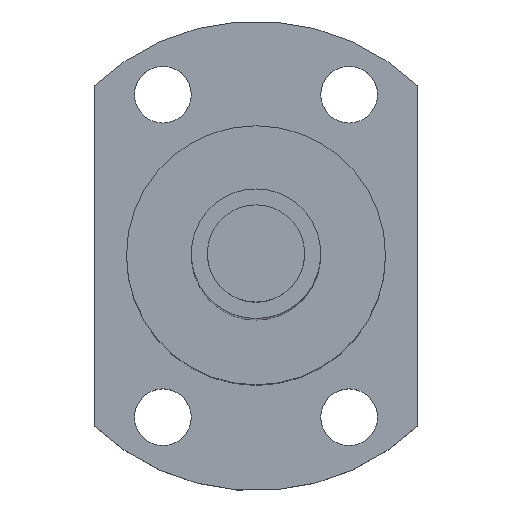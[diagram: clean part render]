
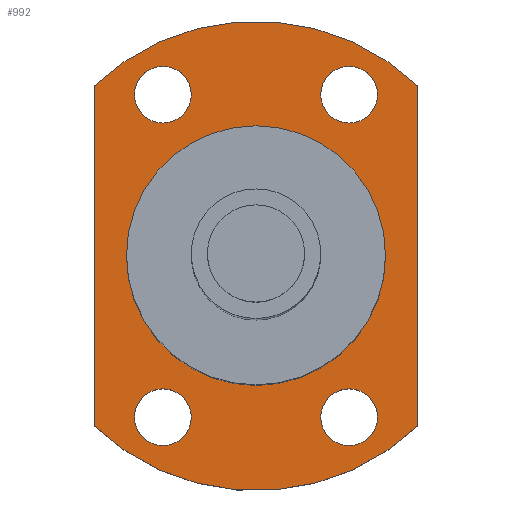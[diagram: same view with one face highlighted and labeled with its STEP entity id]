
A CAD part, top view. The second image highlights one B-rep face of the part: STEP entity #992.
In plain terms, the highlighted planar face has unit normal (0, 0, 1).
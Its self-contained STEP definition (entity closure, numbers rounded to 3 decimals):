
#219=CARTESIAN_POINT('',(5.75,9.959,110.));
#220=DIRECTION('',(0.,0.,-1.));
#221=DIRECTION('',(1.,0.,0.));
#222=AXIS2_PLACEMENT_3D('',#219,#220,#221);
#224=CARTESIAN_POINT('',(5.75,9.959,110.));
#225=DIRECTION('',(0.,0.,-1.));
#226=DIRECTION('',(-1.,0.,0.));
#227=AXIS2_PLACEMENT_3D('',#224,#225,#226);
#229=CARTESIAN_POINT('',(-5.75,9.959,110.));
#230=DIRECTION('',(0.,0.,-1.));
#231=DIRECTION('',(1.,0.,0.));
#232=AXIS2_PLACEMENT_3D('',#229,#230,#231);
#234=CARTESIAN_POINT('',(-5.75,9.959,110.));
#235=DIRECTION('',(0.,0.,-1.));
#236=DIRECTION('',(-1.,0.,0.));
#237=AXIS2_PLACEMENT_3D('',#234,#235,#236);
#239=CARTESIAN_POINT('',(5.75,-9.959,110.));
#240=DIRECTION('',(0.,0.,-1.));
#241=DIRECTION('',(1.,0.,0.));
#242=AXIS2_PLACEMENT_3D('',#239,#240,#241);
#244=CARTESIAN_POINT('',(5.75,-9.959,110.));
#245=DIRECTION('',(0.,0.,-1.));
#246=DIRECTION('',(-1.,0.,0.));
#247=AXIS2_PLACEMENT_3D('',#244,#245,#246);
#249=CARTESIAN_POINT('',(-5.75,-9.959,110.));
#250=DIRECTION('',(0.,0.,-1.));
#251=DIRECTION('',(1.,0.,0.));
#252=AXIS2_PLACEMENT_3D('',#249,#250,#251);
#254=CARTESIAN_POINT('',(-5.75,-9.959,110.));
#255=DIRECTION('',(0.,0.,-1.));
#256=DIRECTION('',(-1.,0.,0.));
#257=AXIS2_PLACEMENT_3D('',#254,#255,#256);
#259=CARTESIAN_POINT('',(0.,0.,110.));
#260=DIRECTION('',(0.,0.,1.));
#261=DIRECTION('',(0.69,0.724,0.));
#262=AXIS2_PLACEMENT_3D('',#259,#260,#261);
#264=DIRECTION('',(0.,1.,0.));
#265=VECTOR('',#264,21.);
#266=CARTESIAN_POINT('',(10.,-10.5,110.));
#267=LINE('',#266,#265);
#268=CARTESIAN_POINT('',(0.,0.,110.));
#269=DIRECTION('',(0.,0.,1.));
#270=DIRECTION('',(-0.69,-0.724,0.));
#271=AXIS2_PLACEMENT_3D('',#268,#269,#270);
#273=DIRECTION('',(0.,-1.,0.));
#274=VECTOR('',#273,21.);
#275=CARTESIAN_POINT('',(-10.,10.5,110.));
#276=LINE('',#275,#274);
#277=CARTESIAN_POINT('',(0.,0.,110.));
#278=DIRECTION('',(0.,0.,1.));
#279=DIRECTION('',(1.,0.,0.));
#280=AXIS2_PLACEMENT_3D('',#277,#278,#279);
#282=CARTESIAN_POINT('',(0.,0.,110.));
#283=DIRECTION('',(0.,0.,1.));
#284=DIRECTION('',(-1.,0.,0.));
#285=AXIS2_PLACEMENT_3D('',#282,#283,#284);
#573=CARTESIAN_POINT('',(7.5,9.959,110.));
#574=CARTESIAN_POINT('',(4.,9.959,110.));
#575=VERTEX_POINT('',#573);
#576=VERTEX_POINT('',#574);
#577=CARTESIAN_POINT('',(-4.,9.959,110.));
#578=CARTESIAN_POINT('',(-7.5,9.959,110.));
#579=VERTEX_POINT('',#577);
#580=VERTEX_POINT('',#578);
#581=CARTESIAN_POINT('',(7.5,-9.959,110.));
#582=CARTESIAN_POINT('',(4.,-9.959,110.));
#583=VERTEX_POINT('',#581);
#584=VERTEX_POINT('',#582);
#585=CARTESIAN_POINT('',(-4.,-9.959,110.));
#586=CARTESIAN_POINT('',(-7.5,-9.959,110.));
#587=VERTEX_POINT('',#585);
#588=VERTEX_POINT('',#586);
#589=CARTESIAN_POINT('',(-10.,10.5,110.));
#590=CARTESIAN_POINT('',(-10.,-10.5,110.));
#591=VERTEX_POINT('',#589);
#592=VERTEX_POINT('',#590);
#593=CARTESIAN_POINT('',(10.,-10.5,110.));
#594=CARTESIAN_POINT('',(10.,10.5,110.));
#595=VERTEX_POINT('',#593);
#596=VERTEX_POINT('',#594);
#605=CARTESIAN_POINT('',(8.,0.,110.));
#606=CARTESIAN_POINT('',(-8.,0.,110.));
#607=VERTEX_POINT('',#605);
#608=VERTEX_POINT('',#606);
#949=CARTESIAN_POINT('',(0.,0.,110.));
#950=DIRECTION('',(0.,0.,1.));
#951=DIRECTION('',(1.,0.,0.));
#952=AXIS2_PLACEMENT_3D('',#949,#950,#951);
#953=PLANE('',#952);
#955=ORIENTED_EDGE('',*,*,#954,.F.);
#957=ORIENTED_EDGE('',*,*,#956,.F.);
#959=ORIENTED_EDGE('',*,*,#958,.F.);
#961=ORIENTED_EDGE('',*,*,#960,.F.);
#962=EDGE_LOOP('',(#955,#957,#959,#961));
#963=FACE_OUTER_BOUND('',#962,.F.);
#964=ORIENTED_EDGE('',*,*,#929,.F.);
#965=ORIENTED_EDGE('',*,*,#943,.F.);
#966=EDGE_LOOP('',(#964,#965));
#967=FACE_BOUND('',#966,.F.);
#969=ORIENTED_EDGE('',*,*,#968,.F.);
#971=ORIENTED_EDGE('',*,*,#970,.F.);
#972=EDGE_LOOP('',(#969,#971));
#973=FACE_BOUND('',#972,.F.);
#975=ORIENTED_EDGE('',*,*,#974,.F.);
#977=ORIENTED_EDGE('',*,*,#976,.F.);
#978=EDGE_LOOP('',(#975,#977));
#979=FACE_BOUND('',#978,.F.);
#981=ORIENTED_EDGE('',*,*,#980,.F.);
#983=ORIENTED_EDGE('',*,*,#982,.F.);
#984=EDGE_LOOP('',(#981,#983));
#985=FACE_BOUND('',#984,.F.);
#987=ORIENTED_EDGE('',*,*,#986,.T.);
#989=ORIENTED_EDGE('',*,*,#988,.T.);
#990=EDGE_LOOP('',(#987,#989));
#991=FACE_BOUND('',#990,.F.);
#992=ADVANCED_FACE('',(#963,#967,#973,#979,#985,#991),#953,.T.);
#223=CIRCLE('',#222,1.75);
#228=CIRCLE('',#227,1.75);
#233=CIRCLE('',#232,1.75);
#238=CIRCLE('',#237,1.75);
#243=CIRCLE('',#242,1.75);
#248=CIRCLE('',#247,1.75);
#253=CIRCLE('',#252,1.75);
#258=CIRCLE('',#257,1.75);
#263=CIRCLE('',#262,14.5);
#272=CIRCLE('',#271,14.5);
#281=CIRCLE('',#280,8.);
#286=CIRCLE('',#285,8.);
#929=EDGE_CURVE('',#575,#576,#223,.T.);
#943=EDGE_CURVE('',#576,#575,#228,.T.);
#954=EDGE_CURVE('',#596,#591,#263,.T.);
#956=EDGE_CURVE('',#595,#596,#267,.T.);
#958=EDGE_CURVE('',#592,#595,#272,.T.);
#960=EDGE_CURVE('',#591,#592,#276,.T.);
#968=EDGE_CURVE('',#579,#580,#233,.T.);
#970=EDGE_CURVE('',#580,#579,#238,.T.);
#974=EDGE_CURVE('',#583,#584,#243,.T.);
#976=EDGE_CURVE('',#584,#583,#248,.T.);
#980=EDGE_CURVE('',#587,#588,#253,.T.);
#982=EDGE_CURVE('',#588,#587,#258,.T.);
#986=EDGE_CURVE('',#607,#608,#281,.T.);
#988=EDGE_CURVE('',#608,#607,#286,.T.);
